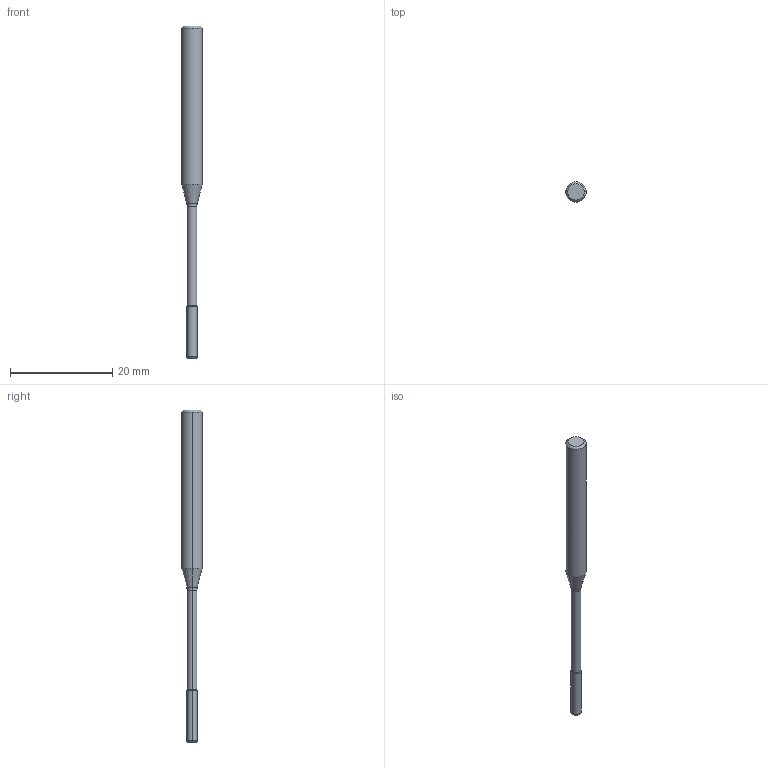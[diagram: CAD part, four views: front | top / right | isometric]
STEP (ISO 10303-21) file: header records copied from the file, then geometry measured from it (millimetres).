
FILE_DESCRIPTION (( 'STEP AP214' ), '1' );
FILE_NAME ('567.024.75_3D-model.step', '2023-08-21T08:04:01', ( '' ), ( '' ), 'SwSTEP 2.0', 'SolidWorks 2020', '' );
FILE_SCHEMA (( 'AUTOMOTIVE_DESIGN' ));
Length unit declared in the file: millimetre
Products named in the file (3): 567.024.75_3D-model; NOCUT-3D^Baugr185; CUT-3D^Baugr185
Assembly tree (2 placements, depth 2):
  567.024.75_3D-model
    CUT-3D^Baugr185
    NOCUT-3D^Baugr185
Bounding box: 4 x 4 x 65 mm (x, y, z)
Volume: 505.7 mm3; surface area: 628.7 mm2
Topology: 2 solids, 2 shells, 20 faces, 36 edges, 20 vertices
Faces by surface type: cylinder 6, cone 6, torus 4, plane 4
Entity records: 610 total; most frequent: DIRECTION 116, CARTESIAN_POINT 84, ORIENTED_EDGE 72, AXIS2_PLACEMENT_3D 52, EDGE_CURVE 36, CIRCLE 24, ADVANCED_FACE 20, EDGE_LOOP 20
